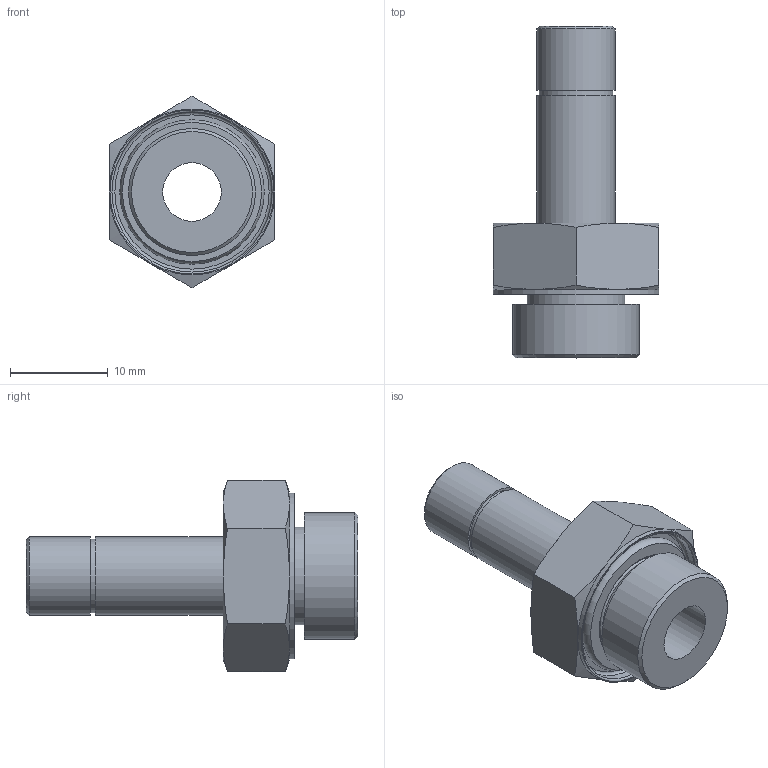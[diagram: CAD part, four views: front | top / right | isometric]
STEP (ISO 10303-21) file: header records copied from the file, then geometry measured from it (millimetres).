
FILE_DESCRIPTION(/* description */ (''),/* implementation_level */ '2;1');
FILE_NAME(/* name */ 'LXH16 0008 B2.stp',/* time_stamp */ '2026-04-29T15:13:05+02:00',/* author */ ('freju'),/* organization */ (''),/* preprocessor_version */ 'ST-DEVELOPER v20.1',/* originating_system */ 'Autodesk Inventor 2026',/* authorisation */ '');
FILE_SCHEMA (('AUTOMOTIVE_DESIGN { 1 0 10303 214 3 1 1 }','TECHNICAL_DATA_PACKAGING'));
Length unit declared in the file: millimetre
Products named in the file (4): LXH16 0008 B2; LXH16 0008 B2_1; O-Ring; ISO 3601-1 - A 0112 G
Assembly tree (3 placements, depth 3):
  LXH16 0008 B2
    LXH16 0008 B2_1
    O-Ring
      ISO 3601-1 - A 0112 G
Bounding box: 17 x 34 x 19.63 mm (x, y, z)
Volume: 2608 mm3; surface area: 2680.6 mm2
Topology: 2 solids, 2 shells, 46 faces, 92 edges, 57 vertices
Faces by surface type: plane 17, cone 14, cylinder 9, torus 6
Full cylindrical faces by diameter (mm): 6 x1, 7.5 x1, 8 x2, 10 x1, 11.2 x1, 13 x1, 16.4 x1, 17 x1
Entity records: 1329 total; most frequent: CARTESIAN_POINT 250, DIRECTION 225, ORIENTED_EDGE 184, AXIS2_PLACEMENT_3D 104, EDGE_CURVE 92, EDGE_LOOP 57, VERTEX_POINT 57, CIRCLE 51
